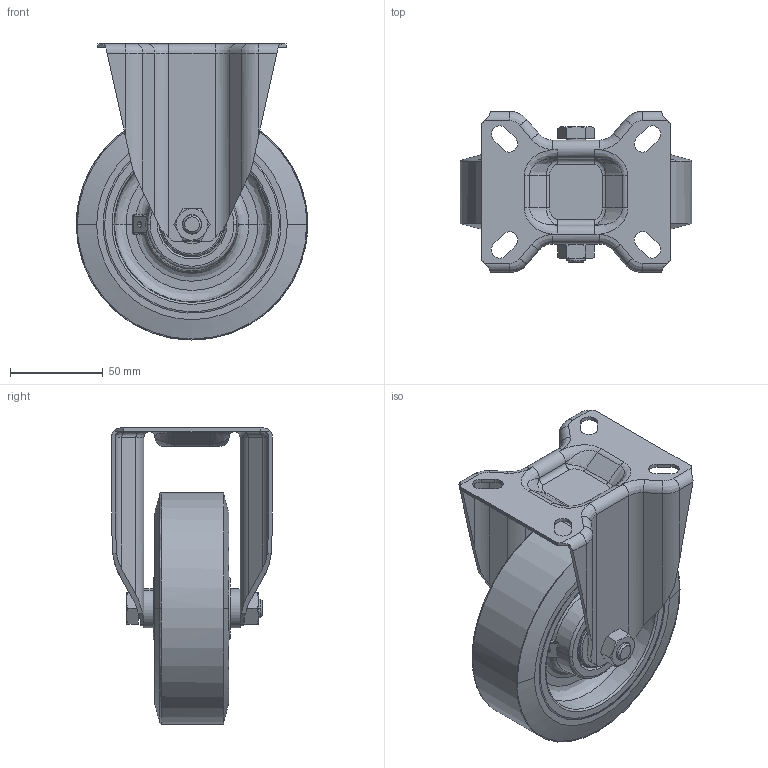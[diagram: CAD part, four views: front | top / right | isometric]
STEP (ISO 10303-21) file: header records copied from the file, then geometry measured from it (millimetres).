
FILE_DESCRIPTION (( 'STEP AP203' ), '1' );
FILE_NAME ('401528_.step', '2015-09-14T06:48:44', ( 'admin' ), ( 'Hewlett-Packard Company' ), 'SwSTEP 2.0', 'SolidWorks 2014', '' );
FILE_SCHEMA (( 'CONFIG_CONTROL_DESIGN' ));
Length unit declared in the file: millimetre
Products named in the file (1): 401528_
Bounding box: 125 x 87 x 160 mm (x, y, z)
Surface area: 126580 mm2 (no closed solid volume)
Topology: 0 solids, 9 shells, 440 faces, 1040 edges, 629 vertices
Faces by surface type: plane 169, bspline 144, cylinder 115, cone 8, torus 4
Entity records: 34375 total; most frequent: CARTESIAN_POINT 25626, ORIENTED_EDGE 2028, DIRECTION 1283, EDGE_CURVE 1034, VERTEX_POINT 627, EDGE_LOOP 477, VECTOR 469, LINE 469
